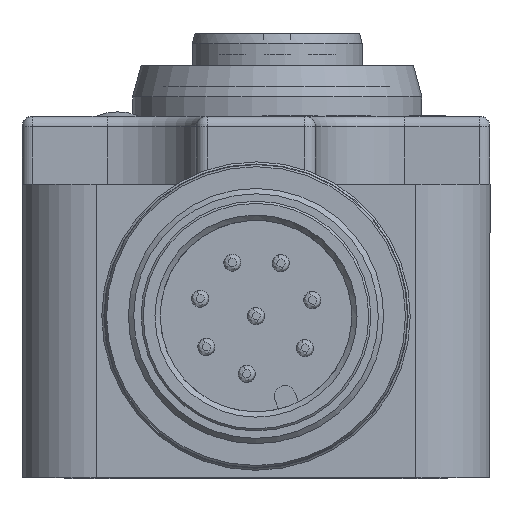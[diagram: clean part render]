
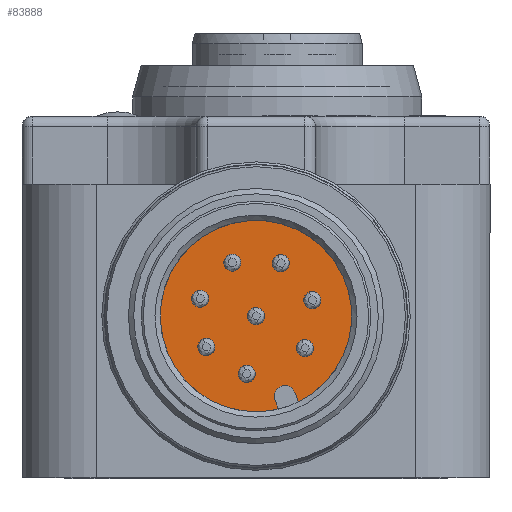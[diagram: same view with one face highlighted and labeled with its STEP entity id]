
A CAD part, front view. The second image highlights one B-rep face of the part: STEP entity #83888.
In plain terms, the highlighted planar face has unit normal (0, -1, 0).
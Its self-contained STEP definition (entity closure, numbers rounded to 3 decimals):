
#82718=CARTESIAN_POINT('',(1.048,-88.777,0.224));
#82719=VERTEX_POINT('',#82718);
#82726=CARTESIAN_POINT('',(1.988,-88.777,0.563));
#82727=VERTEX_POINT('',#82726);
#82728=CARTESIAN_POINT('',(0.,-88.777,4.6));
#82729=DIRECTION('',(0.0,1.0,0.0));
#82730=DIRECTION('',(-0.339,0.0,0.941));
#82731=AXIS2_PLACEMENT_3D('',#82728,#82729,#82730);
#82732=CIRCLE('',#82731,4.5);
#82733=EDGE_CURVE('',#82719,#82727,#82732,.T.);
#82790=CARTESIAN_POINT('',(-0.735,-88.777,7.251));
#82791=VERTEX_POINT('',#82790);
#82792=CARTESIAN_POINT('',(-1.112,-88.777,7.115));
#82793=DIRECTION('',(0.0,1.0,0.0));
#82794=DIRECTION('',(-0.941,0.0,-0.339));
#82795=AXIS2_PLACEMENT_3D('',#82792,#82793,#82794);
#82796=CIRCLE('',#82795,0.4);
#82797=EDGE_CURVE('',#82791,#82791,#82796,.T.);
#82916=CARTESIAN_POINT('',(-2.251,-88.777,5.547));
#82917=VERTEX_POINT('',#82916);
#82918=CARTESIAN_POINT('',(-2.628,-88.777,5.411));
#82919=DIRECTION('',(0.0,1.0,0.0));
#82920=DIRECTION('',(-0.941,0.0,-0.339));
#82921=AXIS2_PLACEMENT_3D('',#82918,#82919,#82920);
#82922=CIRCLE('',#82921,0.4);
#82923=EDGE_CURVE('',#82917,#82917,#82922,.T.);
#83042=CARTESIAN_POINT('',(0.376,-88.777,4.736));
#83043=VERTEX_POINT('',#83042);
#83044=CARTESIAN_POINT('',(0.,-88.777,4.6));
#83045=DIRECTION('',(0.0,1.0,0.0));
#83046=DIRECTION('',(-0.941,0.0,-0.339));
#83047=AXIS2_PLACEMENT_3D('',#83044,#83045,#83046);
#83048=CIRCLE('',#83047,0.4);
#83049=EDGE_CURVE('',#83043,#83043,#83048,.T.);
#83168=CARTESIAN_POINT('',(1.545,-88.777,7.225));
#83169=VERTEX_POINT('',#83168);
#83170=CARTESIAN_POINT('',(1.169,-88.777,7.089));
#83171=DIRECTION('',(0.0,1.0,0.0));
#83172=DIRECTION('',(-0.941,0.0,-0.339));
#83173=AXIS2_PLACEMENT_3D('',#83170,#83171,#83172);
#83174=CIRCLE('',#83173,0.4);
#83175=EDGE_CURVE('',#83169,#83169,#83174,.T.);
#83294=CARTESIAN_POINT('',(2.678,-88.777,3.232));
#83295=VERTEX_POINT('',#83294);
#83296=CARTESIAN_POINT('',(2.302,-88.777,3.096));
#83297=DIRECTION('',(0.0,1.0,0.0));
#83298=DIRECTION('',(-0.941,0.0,-0.339));
#83299=AXIS2_PLACEMENT_3D('',#83296,#83297,#83298);
#83300=CIRCLE('',#83299,0.4);
#83301=EDGE_CURVE('',#83295,#83295,#83300,.T.);
#83420=CARTESIAN_POINT('',(-0.061,-88.777,2.021));
#83421=VERTEX_POINT('',#83420);
#83422=CARTESIAN_POINT('',(-0.438,-88.777,1.885));
#83423=DIRECTION('',(0.0,1.0,0.0));
#83424=DIRECTION('',(-0.941,0.0,-0.339));
#83425=AXIS2_PLACEMENT_3D('',#83422,#83423,#83424);
#83426=CIRCLE('',#83425,0.4);
#83427=EDGE_CURVE('',#83421,#83421,#83426,.T.);
#83546=CARTESIAN_POINT('',(-1.96,-88.777,3.285));
#83547=VERTEX_POINT('',#83546);
#83548=CARTESIAN_POINT('',(-2.336,-88.777,3.149));
#83549=DIRECTION('',(0.0,1.0,0.0));
#83550=DIRECTION('',(-0.941,0.0,-0.339));
#83551=AXIS2_PLACEMENT_3D('',#83548,#83549,#83550);
#83552=CIRCLE('',#83551,0.4);
#83553=EDGE_CURVE('',#83547,#83547,#83552,.T.);
#83672=CARTESIAN_POINT('',(3.022,-88.777,5.487));
#83673=VERTEX_POINT('',#83672);
#83674=CARTESIAN_POINT('',(2.646,-88.777,5.351));
#83675=DIRECTION('',(0.0,1.0,0.0));
#83676=DIRECTION('',(-0.941,0.0,-0.339));
#83677=AXIS2_PLACEMENT_3D('',#83674,#83675,#83676);
#83678=CIRCLE('',#83677,0.4);
#83679=EDGE_CURVE('',#83673,#83673,#83678,.T.);
#83760=CARTESIAN_POINT('',(1.828,-88.777,1.007));
#83761=VERTEX_POINT('',#83760);
#83762=CARTESIAN_POINT('',(1.828,-88.777,1.007));
#83763=DIRECTION('',(0.339,0.0,-0.941));
#83764=VECTOR('',#83763,0.472);
#83765=LINE('',#83762,#83764);
#83766=EDGE_CURVE('',#83761,#82727,#83765,.T.);
#83791=CARTESIAN_POINT('',(0.887,-88.777,0.668));
#83792=VERTEX_POINT('',#83791);
#83793=CARTESIAN_POINT('',(1.048,-88.777,0.224));
#83794=DIRECTION('',(-0.339,0.0,0.941));
#83795=VECTOR('',#83794,0.472);
#83796=LINE('',#83793,#83795);
#83797=EDGE_CURVE('',#82719,#83792,#83796,.T.);
#83822=CARTESIAN_POINT('',(1.358,-88.777,0.838));
#83823=DIRECTION('',(0.0,1.0,0.0));
#83824=DIRECTION('',(0.941,0.0,0.339));
#83825=AXIS2_PLACEMENT_3D('',#83822,#83823,#83824);
#83826=CIRCLE('',#83825,0.5);
#83827=EDGE_CURVE('',#83792,#83761,#83826,.T.);
#83853=CARTESIAN_POINT('',(-0.764,-88.777,6.716));
#83854=DIRECTION('',(0.0,-1.0,0.0));
#83855=DIRECTION('',(0.0,0.0,-1.0));
#83856=AXIS2_PLACEMENT_3D('',#83853,#83854,#83855);
#83857=PLANE('',#83856);
#83858=ORIENTED_EDGE('',*,*,#83797,.T.);
#83859=ORIENTED_EDGE('',*,*,#83827,.T.);
#83860=ORIENTED_EDGE('',*,*,#83766,.T.);
#83861=ORIENTED_EDGE('',*,*,#82733,.F.);
#83862=EDGE_LOOP('',(#83858,#83859,#83860,#83861));
#83863=FACE_OUTER_BOUND('',#83862,.T.);
#83864=ORIENTED_EDGE('',*,*,#83679,.T.);
#83865=EDGE_LOOP('',(#83864));
#83866=FACE_BOUND('',#83865,.T.);
#83867=ORIENTED_EDGE('',*,*,#83553,.T.);
#83868=EDGE_LOOP('',(#83867));
#83869=FACE_BOUND('',#83868,.T.);
#83870=ORIENTED_EDGE('',*,*,#83427,.T.);
#83871=EDGE_LOOP('',(#83870));
#83872=FACE_BOUND('',#83871,.T.);
#83873=ORIENTED_EDGE('',*,*,#82797,.T.);
#83874=EDGE_LOOP('',(#83873));
#83875=FACE_BOUND('',#83874,.T.);
#83876=ORIENTED_EDGE('',*,*,#83301,.T.);
#83877=EDGE_LOOP('',(#83876));
#83878=FACE_BOUND('',#83877,.T.);
#83879=ORIENTED_EDGE('',*,*,#83175,.T.);
#83880=EDGE_LOOP('',(#83879));
#83881=FACE_BOUND('',#83880,.T.);
#83882=ORIENTED_EDGE('',*,*,#83049,.T.);
#83883=EDGE_LOOP('',(#83882));
#83884=FACE_BOUND('',#83883,.T.);
#83885=ORIENTED_EDGE('',*,*,#82923,.T.);
#83886=EDGE_LOOP('',(#83885));
#83887=FACE_BOUND('',#83886,.T.);
#83888=ADVANCED_FACE('',(#83863,#83866,#83869,#83872,#83875,#83878,#83881,#83884,#83887),#83857,.T.);
